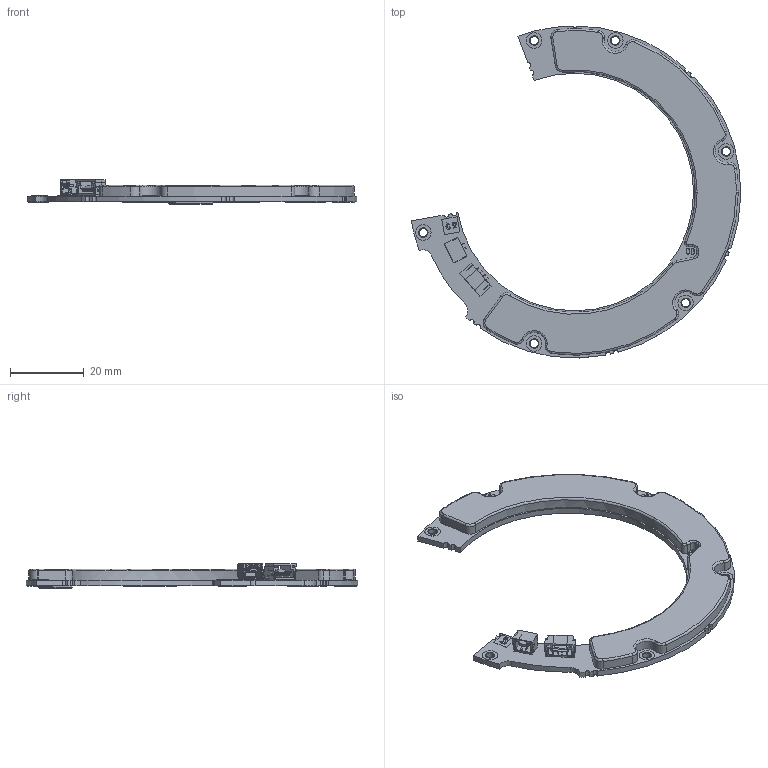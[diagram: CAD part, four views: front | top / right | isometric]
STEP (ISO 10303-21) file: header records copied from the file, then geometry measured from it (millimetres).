
FILE_DESCRIPTION (( 'STEP AP214' ), '1' );
FILE_NAME ('Modul_AksIM_080_HDSL.STEP', '2025-09-10T05:03:30', ( '' ), ( '' ), 'SwSTEP 2.0', 'SolidWorks 2024', '' );
FILE_SCHEMA (( 'AUTOMOTIVE_DESIGN' ));
Length unit declared in the file: millimetre
Products named in the file (1): Modul_AksIM_080_HDSL
Bounding box: 89.3 x 89.98 x 6.71 mm (x, y, z)
Volume: 8779.6 mm3; surface area: 7072.6 mm2
Topology: 16 solids, 16 shells, 1081 faces, 3091 edges, 2062 vertices
Faces by surface type: plane 845, cylinder 177, torus 38, bspline 21
Entity records: 44258 total; most frequent: CARTESIAN_POINT 7768, ORIENTED_EDGE 6182, DIRECTION 5451, EDGE_CURVE 3091, VECTOR 2537, LINE 2537, VERTEX_POINT 2062, AXIS2_PLACEMENT_3D 1457
